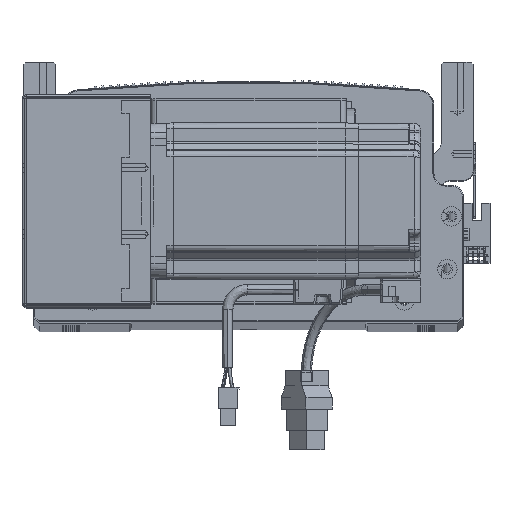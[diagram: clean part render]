
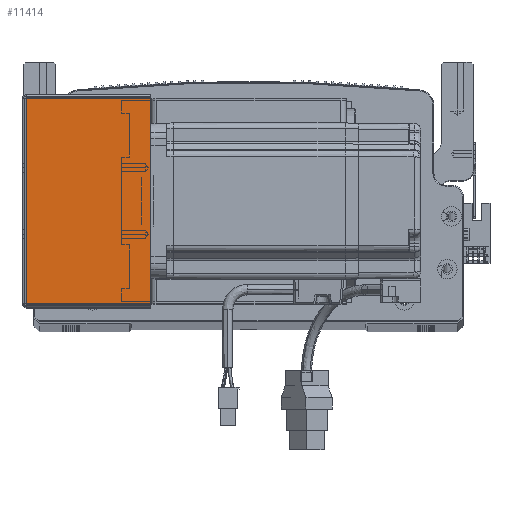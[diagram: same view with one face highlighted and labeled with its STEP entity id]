
A CAD part, top view. The second image highlights one B-rep face of the part: STEP entity #11414.
In plain terms, the highlighted planar face has unit normal (0, 0, 1) as drawn and (0, 0, -1) by its records, which use the part's own axes.
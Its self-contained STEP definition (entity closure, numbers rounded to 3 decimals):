
#4107 = PLANE ( 'NONE',  #27755 ) ;
#4910 = DIRECTION ( 'NONE',  ( 1., 0., 0. ) ) ;
#8134 = VECTOR ( 'NONE', #39212, 1000. ) ;
#9998 = VERTEX_POINT ( 'NONE', #56304 ) ;
#10624 = CARTESIAN_POINT ( 'NONE',  ( 0., 0.707, -205.5 ) ) ;
#11414 = ADVANCED_FACE ( 'NONE', ( #94177 ), #4107, .F. ) ;
#11593 = VECTOR ( 'NONE', #25196, 1000. ) ;
#12307 = DIRECTION ( 'NONE',  ( 1., 0., 0. ) ) ;
#17285 = CARTESIAN_POINT ( 'NONE',  ( 64.5, 0., -205.5 ) ) ;
#18987 = DIRECTION ( 'NONE',  ( 0., 0., 1. ) ) ;
#19725 = CARTESIAN_POINT ( 'NONE',  ( 64.5, 105.293, -205.5 ) ) ;
#23636 = VECTOR ( 'NONE', #4910, 1000. ) ;
#25196 = DIRECTION ( 'NONE',  ( 1., 0., 0. ) ) ;
#27222 = EDGE_LOOP ( 'NONE', ( #81823, #42031, #58636, #72120 ) ) ;
#27755 = AXIS2_PLACEMENT_3D ( 'NONE', #33295, #18987, #12307 ) ;
#30911 = LINE ( 'NONE', #17285, #8134 ) ;
#33295 = CARTESIAN_POINT ( 'NONE',  ( 0., 0., -205.5 ) ) ;
#33842 = LINE ( 'NONE', #63286, #23636 ) ;
#34848 = VERTEX_POINT ( 'NONE', #54826 ) ;
#37103 = EDGE_CURVE ( 'NONE', #80927, #9998, #30911, .T. ) ;
#37213 = EDGE_CURVE ( 'NONE', #58948, #9998, #49054, .T. ) ;
#39212 = DIRECTION ( 'NONE',  ( 0., -1., 0. ) ) ;
#41130 = EDGE_CURVE ( 'NONE', #34848, #80927, #33842, .T. ) ;
#41727 = EDGE_CURVE ( 'NONE', #34848, #58948, #59790, .T. ) ;
#42031 = ORIENTED_EDGE ( 'NONE', *, *, #41130, .T. ) ;
#43115 = DIRECTION ( 'NONE',  ( 0., -1., 0. ) ) ;
#49054 = LINE ( 'NONE', #10624, #11593 ) ;
#54826 = CARTESIAN_POINT ( 'NONE',  ( 0.737, 105.293, -205.5 ) ) ;
#56304 = CARTESIAN_POINT ( 'NONE',  ( 64.5, 0.707, -205.5 ) ) ;
#57700 = CARTESIAN_POINT ( 'NONE',  ( 0.737, 0., -205.5 ) ) ;
#58636 = ORIENTED_EDGE ( 'NONE', *, *, #37103, .T. ) ;
#58948 = VERTEX_POINT ( 'NONE', #78104 ) ;
#59790 = LINE ( 'NONE', #57700, #64350 ) ;
#63286 = CARTESIAN_POINT ( 'NONE',  ( 0., 105.293, -205.5 ) ) ;
#64350 = VECTOR ( 'NONE', #43115, 1000. ) ;
#72120 = ORIENTED_EDGE ( 'NONE', *, *, #37213, .F. ) ;
#78104 = CARTESIAN_POINT ( 'NONE',  ( 0.737, 0.707, -205.5 ) ) ;
#80927 = VERTEX_POINT ( 'NONE', #19725 ) ;
#81823 = ORIENTED_EDGE ( 'NONE', *, *, #41727, .F. ) ;
#94177 = FACE_OUTER_BOUND ( 'NONE', #27222, .T. ) ;
